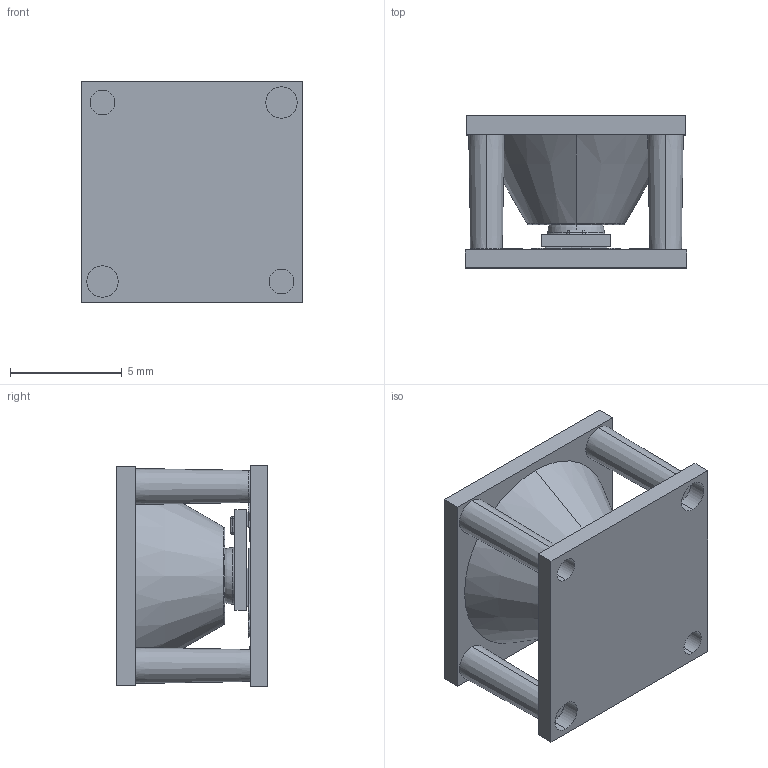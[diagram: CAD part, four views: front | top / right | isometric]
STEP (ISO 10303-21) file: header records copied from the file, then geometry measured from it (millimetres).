
FILE_DESCRIPTION (( 'STEP AP214' ), '1' );
FILE_NAME ('SW-05.STEP', '2023-11-14T02:36:16', ( '' ), ( '' ), 'SwSTEP 2.0', 'SolidWorks 2021', '' );
FILE_SCHEMA (( 'AUTOMOTIVE_DESIGN' ));
Length unit declared in the file: millimetre
Products named in the file (1): SW-05
Bounding box: 9.9 x 6.79 x 9.9 mm (x, y, z)
Volume: 183.1 mm3; surface area: 689.5 mm2
Topology: 3 solids, 3 shells, 306 faces, 778 edges, 505 vertices
Faces by surface type: plane 157, bspline 63, cylinder 56, torus 12, cone 12, sphere 6
Entity records: 15288 total; most frequent: CARTESIAN_POINT 5397, ORIENTED_EDGE 1542, DIRECTION 1290, EDGE_CURVE 771, VERTEX_POINT 504, VECTOR 488, LINE 488, AXIS2_PLACEMENT_3D 401
